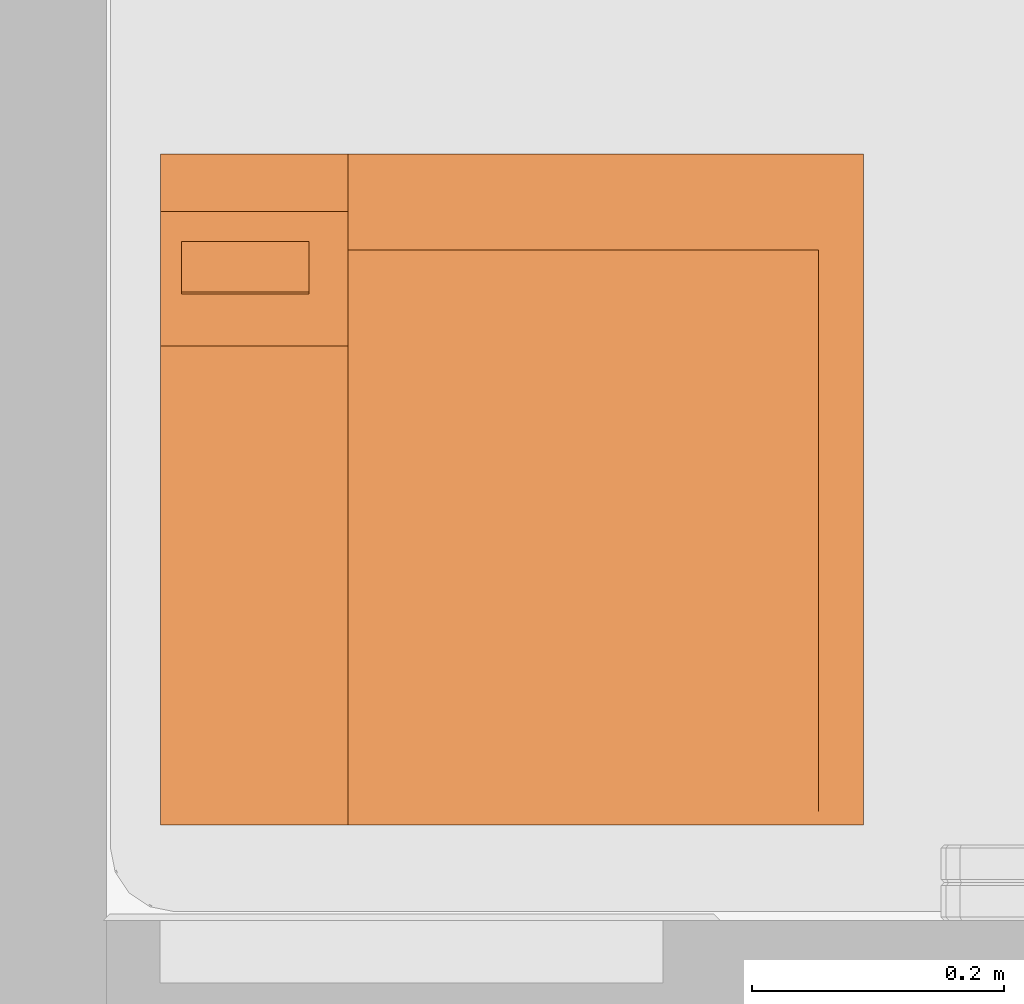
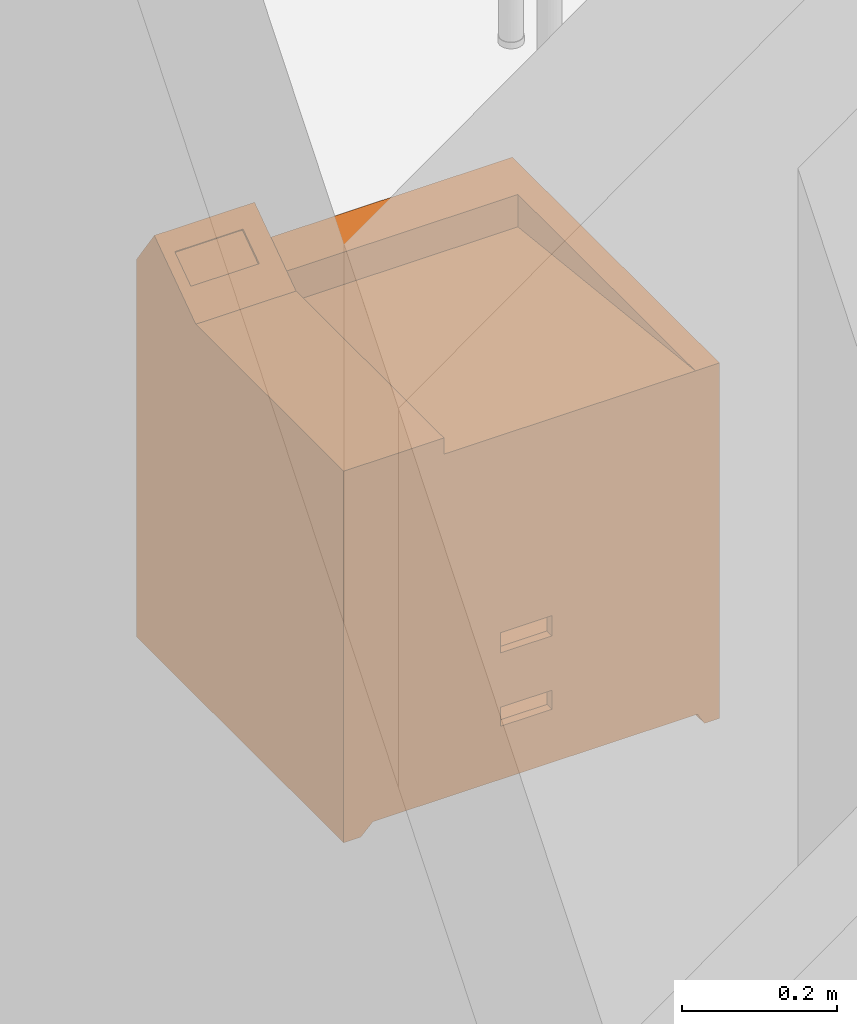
# One storey, part 31 of 31: 1 proxy.
"""IFC2X3 building model written with IfcOpenShell, lengths in millimetres."""

from ifc_helpers import new_model, entity, si_unit, converted_unit, derived_unit, direction, frame, origin, place, context, subcontext, project, spatial, faceted_brep, source, transform, mapped, material, material_list, type_object, type_shapes, element, save


model = new_model("IFC2X3")

# Units and contexts
model_context = context("Model", 3, precision=0.01, world=origin(), true_north=direction((6.123031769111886e-17, 1.0)))
body_context = subcontext(model_context, "Body", "Model", "MODEL_VIEW")
ifc_project = project(units=[si_unit("LENGTHUNIT", "METRE", prefix="MILLI"), si_unit("AREAUNIT", "SQUARE_METRE"), si_unit("VOLUMEUNIT", "CUBIC_METRE"), converted_unit("PLANEANGLEUNIT", "DEGREE", entity("IfcRatioMeasure", 0.017453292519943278), si_unit("PLANEANGLEUNIT", "RADIAN"), dimensions=[0, 0, 0, 0, 0, 0, 0]), si_unit("MASSUNIT", "GRAM", prefix="KILO"), derived_unit("MASSDENSITYUNIT", [(si_unit("MASSUNIT", "GRAM", prefix="KILO"), 1), (si_unit("LENGTHUNIT", "METRE"), -3)]), derived_unit("MOMENTOFINERTIAUNIT", [(si_unit("LENGTHUNIT", "METRE"), 4)]), si_unit("TIMEUNIT", "SECOND"), si_unit("FREQUENCYUNIT", "HERTZ"), si_unit("THERMODYNAMICTEMPERATUREUNIT", "DEGREE_CELSIUS"), derived_unit("THERMALTRANSMITTANCEUNIT", [(si_unit("MASSUNIT", "GRAM", prefix="KILO"), 1), (si_unit("THERMODYNAMICTEMPERATUREUNIT", "KELVIN"), -1), (si_unit("TIMEUNIT", "SECOND"), -3)]), derived_unit("VOLUMETRICFLOWRATEUNIT", [(si_unit("LENGTHUNIT", "METRE"), 3), (si_unit("TIMEUNIT", "SECOND"), -1)]), derived_unit("MASSFLOWRATEUNIT", [(si_unit("MASSUNIT", "GRAM", prefix="KILO"), 1), (si_unit("TIMEUNIT", "SECOND"), -1)]), derived_unit("ROTATIONALFREQUENCYUNIT", [(si_unit("TIMEUNIT", "SECOND"), -1)]), si_unit("ELECTRICCURRENTUNIT", "AMPERE"), si_unit("ELECTRICVOLTAGEUNIT", "VOLT"), si_unit("POWERUNIT", "WATT"), si_unit("FORCEUNIT", "NEWTON", prefix="KILO"), si_unit("ILLUMINANCEUNIT", "LUX"), si_unit("LUMINOUSFLUXUNIT", "LUMEN"), si_unit("LUMINOUSINTENSITYUNIT", "CANDELA"), derived_unit("USERDEFINED", [(si_unit("MASSUNIT", "GRAM", prefix="KILO"), -1), (si_unit("LENGTHUNIT", "METRE"), -2), (si_unit("TIMEUNIT", "SECOND"), 3), (si_unit("LUMINOUSFLUXUNIT", "LUMEN"), 1)]), derived_unit("SOUNDPOWERUNIT", [(si_unit("MASSUNIT", "GRAM", prefix="KILO"), 1), (si_unit("LENGTHUNIT", "METRE"), 2), (si_unit("TIMEUNIT", "SECOND"), -3)]), derived_unit("SOUNDPRESSUREUNIT", [(si_unit("MASSUNIT", "GRAM", prefix="KILO"), 1), (si_unit("LENGTHUNIT", "METRE"), -1), (si_unit("TIMEUNIT", "SECOND"), -2)]), derived_unit("LINEARVELOCITYUNIT", [(si_unit("LENGTHUNIT", "METRE"), 1), (si_unit("TIMEUNIT", "SECOND"), -1)]), si_unit("PRESSUREUNIT", "PASCAL"), derived_unit("USERDEFINED", [(si_unit("LENGTHUNIT", "METRE"), -2), (si_unit("MASSUNIT", "GRAM", prefix="KILO"), 1), (si_unit("TIMEUNIT", "SECOND"), -2)]), derived_unit("LINEARFORCEUNIT", [(si_unit("MASSUNIT", "GRAM", prefix="KILO"), 1), (si_unit("LENGTHUNIT", "METRE"), 1), (si_unit("TIMEUNIT", "SECOND"), -2), (si_unit("LENGTHUNIT", "METRE"), -1)]), derived_unit("PLANARFORCEUNIT", [(si_unit("MASSUNIT", "GRAM", prefix="KILO"), 1), (si_unit("LENGTHUNIT", "METRE"), 1), (si_unit("TIMEUNIT", "SECOND"), -2), (si_unit("LENGTHUNIT", "METRE"), -2)])], contexts=[model_context])

# Site, building, storey
site_placement = place(None, origin())
site = spatial("IfcSite", under=ifc_project, at=site_placement, Name="Default", CompositionType="ELEMENT")
building_placement = place(site_placement, origin())
building = spatial("IfcBuilding", under=site, at=building_placement, CompositionType="ELEMENT")
storey_placement = place(building_placement, frame((0.0, 0.0, 3880.0)))
storey = spatial("IfcBuildingStorey", under=building, at=storey_placement, Name="Niveau 1", CompositionType="ELEMENT", Elevation=3880.0)

# Proxy
ifc_material = material(Name="Plastique - Blanc cassé")
ifc_material_list_1 = material_list([ifc_material, ifc_material, ifc_material, ifc_material, ifc_material])
ifc_material_list_2 = material_list([ifc_material, ifc_material, ifc_material, ifc_material, ifc_material])
building_element_proxy_type = type_object("IfcBuildingElementProxyType", Name="Imprimante - Table:Imprimante - Table", PredefinedType="NOTDEFINED", material=ifc_material_list_2)
shared_shape = source(origin(), body_context, "Body", "Brep", [
    faceted_brep([(-109.04217565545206, -244.11975524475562, 504.64882789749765), (-109.04217565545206, -244.11975524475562, 326.84882789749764), (348.157824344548, -244.11975524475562, 326.84882789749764), (348.157824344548, -244.11975524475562, 504.64882789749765), (-109.04217565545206, -240.94475524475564, 504.64882789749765), (348.157824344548, -240.94475524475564, 504.64882789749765), (348.157824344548, -240.94475524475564, 326.84882789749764), (-109.04217565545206, -240.94475524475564, 326.84882789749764)], [[[0, 1, 2, 3]], [[4, 5, 6, 7]], [[1, 0, 4, 7]], [[2, 1, 7, 6]], [[3, 2, 6, 5]], [[0, 3, 5, 4]]]),
    faceted_brep([(-14.586375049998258, 289.28024475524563, 558.8), (-14.586375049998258, 289.28024475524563, 594.0391030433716), (-14.586375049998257, 243.765045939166, 659.0415435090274), (-14.58637504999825, 136.88024475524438, 584.1999999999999), (-14.586375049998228, -244.11975524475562, 584.1999999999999), (-14.586375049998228, -244.11975524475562, 558.8), (-163.72120629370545, 289.28024475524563, 558.8), (-163.7212062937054, -244.11975524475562, 558.8), (-163.7212062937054, -244.11975524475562, 584.1999999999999), (-163.72120629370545, 136.88024475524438, 584.1999999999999), (-163.72120629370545, 243.765045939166, 659.0415435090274), (-163.72120629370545, 289.28024475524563, 594.0391030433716), (-147.1407893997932, 219.67786287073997, 642.1755163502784), (-45.540789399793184, 219.67786287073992, 642.1755163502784), (-45.540789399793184, 178.06493902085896, 613.0378333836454), (-147.1407893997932, 178.06493902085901, 613.0378333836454), (-45.540789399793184, 221.49896805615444, 639.5747086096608), (-147.1407893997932, 221.4989680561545, 639.5747086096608), (-147.1407893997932, 179.8860442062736, 610.4370256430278), (-45.540789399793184, 179.8860442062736, 610.4370256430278)], [[[0, 1, 2, 3, 4, 5]], [[6, 7, 8, 9, 10, 11]], [[1, 0, 6, 11]], [[2, 1, 11, 10]], [[3, 2, 10, 9], [12, 13, 14, 15]], [[4, 3, 9, 8]], [[5, 4, 8, 7]], [[0, 5, 7, 6]], [[16, 17, 18, 19]], [[17, 16, 13, 12]], [[18, 17, 12, 15]], [[19, 18, 15, 14]], [[16, 19, 14, 13]]]),
    faceted_brep([(344.21657843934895, -244.11975524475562, 177.1399455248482), (344.21657843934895, -244.11975524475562, 304.13994552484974), (-112.98342156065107, -244.11975524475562, 304.13994552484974), (-112.98342156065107, -244.11975524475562, 177.1399455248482), (69.62647730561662, -244.11975524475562, 248.72225641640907), (145.82647730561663, -244.11975524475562, 248.72225641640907), (145.82647730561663, -244.11975524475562, 216.94142405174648), (69.62647730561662, -244.11975524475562, 216.94142405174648), (344.21657843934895, -231.41975524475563, 177.1399455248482), (-112.98342156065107, -231.41975524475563, 177.1399455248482), (-112.98342156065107, -231.41975524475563, 304.13994552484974), (344.21657843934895, -231.41975524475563, 304.13994552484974), (145.82647730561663, -231.41975524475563, 248.72225641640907), (69.62647730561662, -231.41975524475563, 248.72225641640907), (69.62647730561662, -231.41975524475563, 216.94142405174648), (145.82647730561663, -231.41975524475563, 216.94142405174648)], [[[0, 1, 2, 3], [4, 5, 6, 7]], [[8, 9, 10, 11], [12, 13, 14, 15]], [[1, 0, 8, 11]], [[2, 1, 11, 10]], [[3, 2, 10, 9]], [[0, 3, 9, 8]], [[4, 13, 12, 5]], [[13, 4, 7, 14]], [[14, 7, 6, 15]], [[5, 12, 15, 6]]]),
    faceted_brep([(344.21657843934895, -244.11975524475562, 50.13994552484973), (344.21657843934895, -244.11975524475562, 177.1399455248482), (-112.98342156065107, -244.11975524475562, 177.1399455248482), (-112.98342156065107, -244.11975524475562, 50.13994552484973), (69.62647730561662, -244.11975524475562, 131.53043707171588), (145.82647730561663, -244.11975524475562, 131.53043707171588), (145.82647730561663, -244.11975524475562, 101.59999999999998), (69.62647730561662, -244.11975524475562, 101.59999999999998), (344.21657843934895, -231.41975524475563, 50.13994552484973), (-112.98342156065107, -231.41975524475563, 50.13994552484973), (-112.98342156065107, -231.41975524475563, 177.1399455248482), (344.21657843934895, -231.41975524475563, 177.1399455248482), (145.82647730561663, -231.41975524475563, 131.53043707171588), (69.62647730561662, -231.41975524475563, 131.53043707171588), (69.62647730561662, -231.41975524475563, 101.59999999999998), (145.82647730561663, -231.41975524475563, 101.59999999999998)], [[[0, 1, 2, 3], [4, 5, 6, 7]], [[8, 9, 10, 11], [12, 13, 14, 15]], [[1, 0, 8, 11]], [[2, 1, 11, 10]], [[3, 2, 10, 9]], [[0, 3, 9, 8]], [[4, 13, 12, 5]], [[13, 4, 7, 14]], [[14, 7, 6, 15]], [[5, 12, 15, 6]]]),
    faceted_brep([(395.07879370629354, 289.28024475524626, 558.8), (-163.72120629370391, 289.28024475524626, 558.8), (-163.7212062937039, -244.11975524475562, 558.8), (-14.586375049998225, -244.11975524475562, 558.8), (-14.586375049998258, 213.08024475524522, 558.8), (359.2370853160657, 213.08024475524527, 558.8), (359.2370853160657, -244.11975524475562, 558.8), (395.0787937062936, -244.11975524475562, 558.8), (-163.7212062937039, -244.11975524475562, 0.0), (-163.72120629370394, 289.28024475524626, 0.0), (-138.32120629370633, 289.28024475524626, 0.0), (-138.32120629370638, -244.11975524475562, 0.0), (395.07879370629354, 289.28024475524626, 0.0), (372.608812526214, 289.28024475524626, 0.0), (362.23930594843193, 289.28024475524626, 17.960512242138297), (-120.36069405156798, 289.28024475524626, 17.960512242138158), (-120.36069405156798, -244.11975524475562, 17.960512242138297), (362.23930594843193, -244.11975524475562, 17.960512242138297), (372.608812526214, -244.11975524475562, 0.0), (395.0787937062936, -244.11975524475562, 0.0), (-112.98342156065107, -244.11975524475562, 304.13994552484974), (344.21657843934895, -244.11975524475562, 304.13994552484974), (344.21657843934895, -244.11975524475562, 50.13994552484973), (-112.98342156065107, -244.11975524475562, 50.13994552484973), (359.2370853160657, 213.08024475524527, 508.0), (-14.58637504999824, 213.08024475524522, 508.0), (344.21657843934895, 60.68024475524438, 304.13994552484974), (-112.98342156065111, 60.68024475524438, 304.13994552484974), (-112.98342156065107, 60.68024475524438, 50.13994552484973), (344.21657843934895, 60.68024475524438, 50.13994552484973)], [[[0, 1, 2, 3, 4, 5, 6, 7]], [[8, 9, 10, 11]], [[1, 0, 12, 13, 14, 15, 10, 9]], [[2, 1, 9, 8]], [[2, 8, 11, 16, 17, 18, 19, 7, 6, 3], [20, 21, 22, 23]], [[0, 7, 19, 12]], [[24, 6, 5]], [[25, 4, 3]], [[24, 5, 4, 25]], [[6, 24, 25, 3]], [[15, 16, 11, 10]], [[17, 14, 13, 18]], [[16, 15, 14, 17]], [[26, 27, 28, 29]], [[27, 26, 21, 20]], [[28, 27, 20, 23]], [[29, 28, 23, 22]], [[26, 29, 22, 21]], [[12, 19, 18, 13]]]),
])
type_shapes(building_element_proxy_type, [shared_shape])
proxy_placement = place(storey_placement, frame((-6263.098930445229, -13810.207831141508, 777.0)))
element("IfcBuildingElementProxy", 1, at=proxy_placement, inside=storey, type_object=building_element_proxy_type, material=ifc_material_list_1, Name="Imprimante - Table:Imprimante - Table", ObjectType="Imprimante - Table:Imprimante - Table", context=body_context, shape_type="MappedRepresentation", body=[
    mapped(shared_shape, transform((0.0, 0.0, 0.0), scale=1.0)),
])

save(model, "model.ifc")
